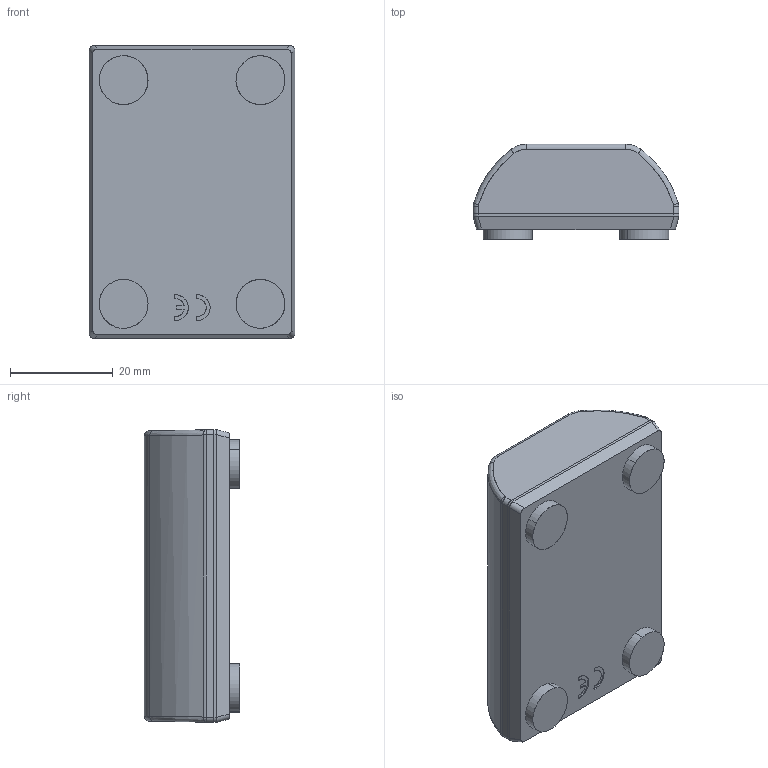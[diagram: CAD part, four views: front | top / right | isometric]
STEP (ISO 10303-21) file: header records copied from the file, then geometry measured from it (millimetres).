
FILE_DESCRIPTION(('STEP AP214'),'2;1');
FILE_NAME('01290-skin.stp','2010-02-18T08:56:34',(''),(''),'2007.1.106','THINKDESIGN','');
FILE_SCHEMA(('AUTOMOTIVE_DESIGN'));
Length unit declared in the file: millimetre
Products named in the file (1): None
Bounding box: 40 x 18.5 x 56.9 mm (x, y, z)
Surface area: 8261.6 mm2 (no closed solid volume)
Topology: 0 solids, 0 shells, 190 faces, 1125 edges, 1125 vertices
Faces by surface type: plane 101, cylinder 77, bspline 12
Entity records: 12983 total; most frequent: CARTESIAN_POINT 5153, DIRECTION 1392, COMPOSITE_CURVE_SEGMENT 1125, TRIMMED_CURVE 911, VECTOR 786, LINE 786, AXIS2_PLACEMENT_3D 303, OUTER_BOUNDARY_CURVE 190
